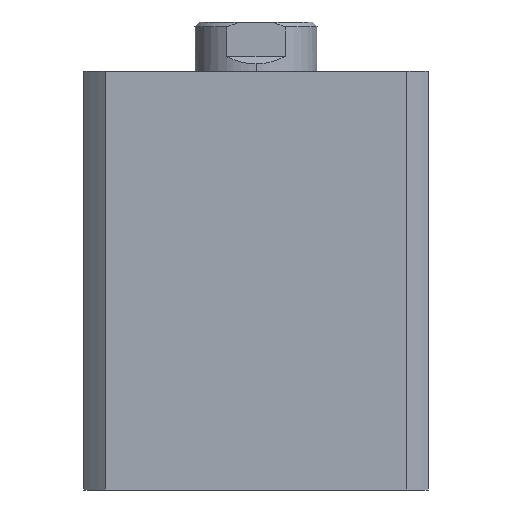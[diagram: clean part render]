
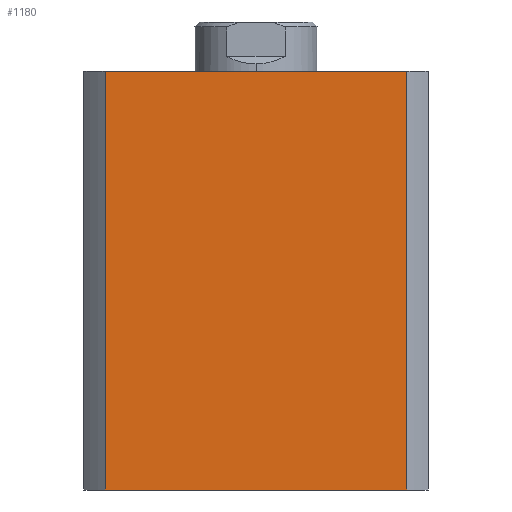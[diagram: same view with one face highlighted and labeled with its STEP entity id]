
A CAD part, left-side view. The second image highlights one B-rep face of the part: STEP entity #1180.
In plain terms, the highlighted planar face has unit normal (-1, 0, 0).
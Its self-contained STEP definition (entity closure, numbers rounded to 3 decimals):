
#132 = FACE_OUTER_BOUND ( 'NONE', #4387, .T. ) ;
#477 = VECTOR ( 'NONE', #3333, 1000. ) ;
#480 = LINE ( 'NONE', #3332, #477 ) ;
#556 = VECTOR ( 'NONE', #2468, 1000. ) ;
#560 = LINE ( 'NONE', #2470, #556 ) ;
#625 = VECTOR ( 'NONE', #2308, 1000. ) ;
#627 = VECTOR ( 'NONE', #2305, 1000. ) ;
#628 = LINE ( 'NONE', #2306, #625 ) ;
#633 = LINE ( 'NONE', #2300, #627 ) ;
#1180 = ADVANCED_FACE ( 'NONE', ( #132 ), #4218, .F. ) ;
#2300 = CARTESIAN_POINT ( 'NONE',  ( -35., 0., 85. ) ) ;
#2305 = DIRECTION ( 'NONE',  ( 0., -1., 0. ) ) ;
#2306 = CARTESIAN_POINT ( 'NONE',  ( -35., -30.615, 85. ) ) ;
#2308 = DIRECTION ( 'NONE',  ( 0., 0., -1. ) ) ;
#2468 = DIRECTION ( 'NONE',  ( 0., -1., 0. ) ) ;
#2470 = CARTESIAN_POINT ( 'NONE',  ( -35., 0., 0. ) ) ;
#2757 = AXIS2_PLACEMENT_3D ( 'NONE', #4222, #4216, #4215 ) ;
#3015 = EDGE_CURVE ( 'NONE', #4317, #4266, #633, .T. ) ;
#3016 = EDGE_CURVE ( 'NONE', #4266, #4234, #628, .T. ) ;
#3059 = EDGE_CURVE ( 'NONE', #4231, #4234, #560, .T. ) ;
#3109 = EDGE_CURVE ( 'NONE', #4317, #4231, #480, .T. ) ;
#3332 = CARTESIAN_POINT ( 'NONE',  ( -35., 30.615, 85. ) ) ;
#3333 = DIRECTION ( 'NONE',  ( 0., 0., -1. ) ) ;
#3478 = CARTESIAN_POINT ( 'NONE',  ( -35., -30.615, 0. ) ) ;
#3480 = CARTESIAN_POINT ( 'NONE',  ( -35., 30.615, 0. ) ) ;
#3513 = CARTESIAN_POINT ( 'NONE',  ( -35., -30.615, 85. ) ) ;
#3564 = CARTESIAN_POINT ( 'NONE',  ( -35., 30.615, 85. ) ) ;
#4215 = DIRECTION ( 'NONE',  ( 0., 1., 0. ) ) ;
#4216 = DIRECTION ( 'NONE',  ( 1., 0., 0. ) ) ;
#4218 = PLANE ( 'NONE',  #2757 ) ;
#4222 = CARTESIAN_POINT ( 'NONE',  ( -35., 0., 85. ) ) ;
#4231 = VERTEX_POINT ( 'NONE', #3480 ) ;
#4234 = VERTEX_POINT ( 'NONE', #3478 ) ;
#4266 = VERTEX_POINT ( 'NONE', #3513 ) ;
#4317 = VERTEX_POINT ( 'NONE', #3564 ) ;
#4387 = EDGE_LOOP ( 'NONE', ( #4844, #4843, #4842, #4841 ) ) ;
#4841 = ORIENTED_EDGE ( 'NONE', *, *, #3109, .T. ) ;
#4842 = ORIENTED_EDGE ( 'NONE', *, *, #3015, .F. ) ;
#4843 = ORIENTED_EDGE ( 'NONE', *, *, #3016, .F. ) ;
#4844 = ORIENTED_EDGE ( 'NONE', *, *, #3059, .T. ) ;
